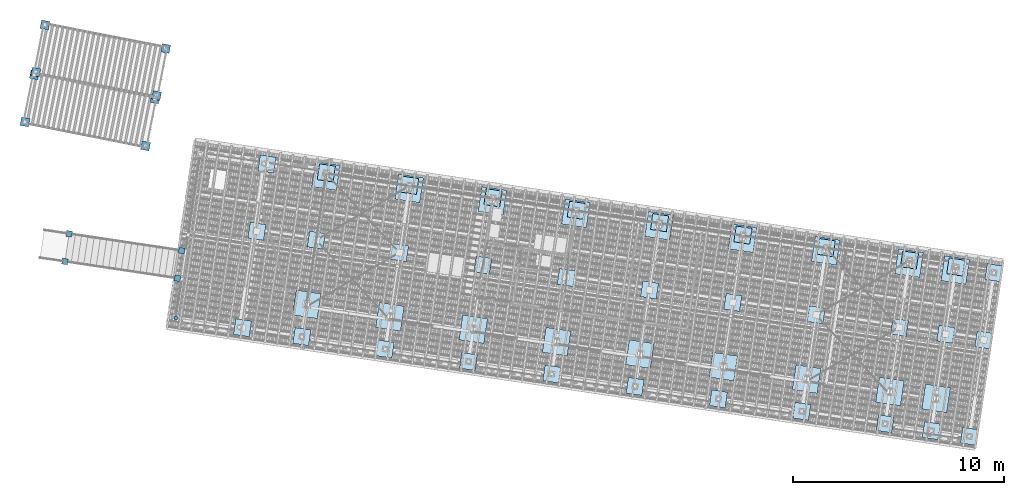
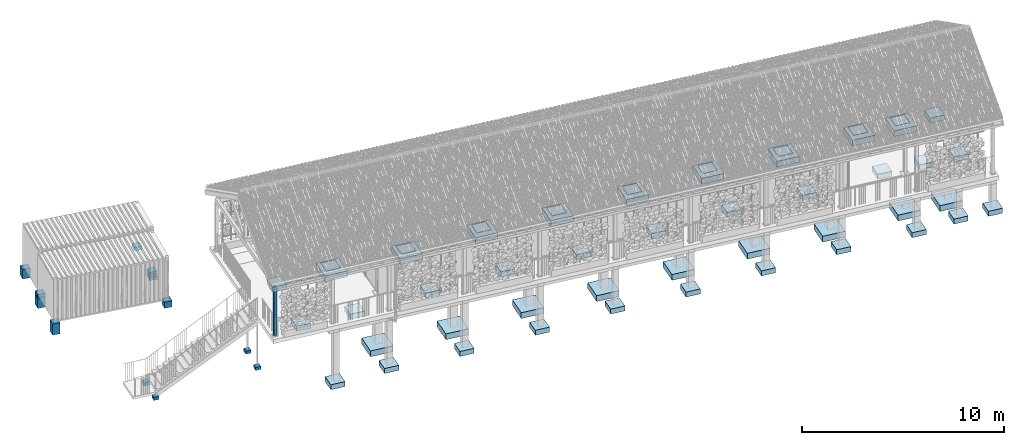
# One storey, part 1 of 131: 63 footings, 1 column, 5 elements without a shape of their own.
"""IFC4 building model written with IfcOpenShell, lengths in metres."""

import ifcopenshell
import ifcopenshell.guid

model = None  # the IFC model being written
_history = None  # IfcOwnerHistory: only IFC2X3 demands one
_inside = {}  # id of a spatial element -> (the spatial element, [elements in it])
_under = {}  # id of a project, library or spatial element -> (it, [spatial elements below it])
_declared = {}  # id of a project -> (the project, [libraries it declares])
_typed = {}  # id of a type object -> (the type object, [elements of that type])
_made_of = {}  # id of a material, layer set ... -> (it, [elements and type objects made of it])


def new_model(schema):
    """Start an empty IFC model of exactly this schema.

    Asked for "IFC4X3", IfcOpenShell would pick the latest addendum, in which some entities
    have other attributes; the version numbers below select the first issue.
    IFC2X3 requires an IfcOwnerHistory on every rooted entity: one is made here for all.
    """
    global model, _history
    if schema == "IFC4X3":
        model = ifcopenshell.file(schema_version=(4, 3, 0, 0))
    else:
        model = ifcopenshell.file(schema=schema)
    _inside.clear()
    _under.clear()
    _declared.clear()
    _typed.clear()
    _made_of.clear()
    _history = None
    if model.schema == "IFC2X3":
        org = make("IfcOrganization", Name="unknown")
        user = make(
            "IfcPersonAndOrganization",
            ThePerson=make("IfcPerson", FamilyName="unknown"),
            TheOrganization=org,
        )
        app = make(
            "IfcApplication",
            ApplicationDeveloper=org,
            Version="unknown",
            ApplicationFullName="unknown",
            ApplicationIdentifier="unknown",
        )
        _history = make(
            "IfcOwnerHistory",
            OwningUser=user,
            OwningApplication=app,
            ChangeAction="ADDED",
            CreationDate=0,
        )
    return model


def make(cls, **values):
    """One entity of the class cls with the attributes given. An attribute that is None is left unset."""
    return model.create_entity(
        cls, **{name: value for name, value in values.items() if value is not None}
    )


def rooted(cls, **values):
    """An entity with a GlobalId (a new one), such as an element, a storey or a relation."""
    return make(cls, GlobalId=ifcopenshell.guid.new(), OwnerHistory=_history, **values)


def si_unit(unit_type, name, prefix=None):
    """IfcSIUnit, for example si_unit("LENGTHUNIT", "METRE", prefix="MILLI")."""
    return make("IfcSIUnit", UnitType=unit_type, Prefix=prefix, Name=name)


def assignment(units):
    """IfcUnitAssignment: the units of a project."""
    return None if units is None else make("IfcUnitAssignment", Units=units)


def point(xyz):
    """IfcCartesianPoint."""
    return None if xyz is None else make("IfcCartesianPoint", Coordinates=xyz)


def direction(xyz):
    """IfcDirection."""
    return None if xyz is None else make("IfcDirection", DirectionRatios=xyz)


def frame(location, z_axis=None, x_axis=None):
    """IfcAxis2Placement3D, a coordinate frame: its origin and axes. An axis left out is left unset."""
    return make(
        "IfcAxis2Placement3D",
        Location=point(location),
        Axis=direction(z_axis),
        RefDirection=direction(x_axis),
    )


def origin_with_axes():
    """The frame at (0, 0, 0) with the z axis (0, 0, 1) and the x axis (1, 0, 0) written out."""
    return frame((0.0, 0.0, 0.0), z_axis=(0.0, 0.0, 1.0), x_axis=(1.0, 0.0, 0.0))


def place(relative_to, where):
    """IfcLocalPlacement: puts the frame where relative to a parent placement (None: the world)."""
    return make(
        "IfcLocalPlacement", PlacementRelTo=relative_to, RelativePlacement=where
    )


def context(
    kind, dimensions, precision=None, world=None, true_north=None, identifier=None
):
    """IfcGeometricRepresentationContext, for example the 3D "Model" context."""
    return make(
        "IfcGeometricRepresentationContext",
        ContextIdentifier=identifier,
        ContextType=kind,
        CoordinateSpaceDimension=dimensions,
        Precision=precision,
        WorldCoordinateSystem=world,
        TrueNorth=true_north,
    )


def subcontext(parent, identifier, kind, view, scale=None):
    """IfcGeometricRepresentationSubContext, for example "Body" below "Model"."""
    return make(
        "IfcGeometricRepresentationSubContext",
        ContextIdentifier=identifier,
        ContextType=kind,
        ParentContext=parent,
        TargetScale=scale,
        TargetView=view,
    )


def project(units=None, contexts=None):
    """IfcProject with its units and contexts."""
    return rooted(
        "IfcProject",
        Name="project",
        RepresentationContexts=contexts,
        UnitsInContext=assignment(units),
    )


def spatial(cls, under=None, at=None, **own):
    """A site, building, storey or space (cls), placed at a placement, below another one or the project."""
    s = rooted(cls, ObjectPlacement=at, **own)
    if under is not None:
        _under.setdefault(under.id(), (under, []))[1].append(s)
    return s


def polyline(points):
    """IfcPolyline through the points."""
    return make("IfcPolyline", Points=[point(p) for p in points])


def profile(cls, at=None, kind="AREA", **sizes):
    """A parametric profile (cls). Its sizes go by their IFC names, for example OverallWidth=200.0."""
    return make(cls, ProfileType=kind, Position=at, **sizes)


def rectangle(**sizes):
    """IfcRectangleProfileDef."""
    return profile("IfcRectangleProfileDef", **sizes)


def outline(outer, holes=None, kind="AREA"):
    """IfcArbitraryClosedProfileDef: a profile drawn as a closed curve; with holes, ...WithVoids."""
    if holes is None:
        return make("IfcArbitraryClosedProfileDef", ProfileType=kind, OuterCurve=outer)
    return make(
        "IfcArbitraryProfileDefWithVoids",
        ProfileType=kind,
        OuterCurve=outer,
        InnerCurves=holes,
    )


def extrude(swept, where, along, depth):
    """IfcExtrudedAreaSolid: the profile swept, set in the frame where, extruded along a direction by depth."""
    return make(
        "IfcExtrudedAreaSolid",
        SweptArea=swept,
        Position=where,
        ExtrudedDirection=direction(along),
        Depth=depth,
    )


def shape(context_of_items, identifier, shape_type, items):
    """IfcShapeRepresentation: the items that make up one representation, for example the "Body"."""
    return make(
        "IfcShapeRepresentation",
        ContextOfItems=context_of_items,
        RepresentationIdentifier=identifier,
        RepresentationType=shape_type,
        Items=items,
    )


def material(Name=None, Category=None):
    """IfcMaterial."""
    return make("IfcMaterial", Name=Name, Category=Category)


def material_profile(
    of_material, cross_section, Name=None, Category=None, Priority=None
):
    """IfcMaterialProfile: a cross section and its material."""
    return make(
        "IfcMaterialProfile",
        Name=Name,
        Material=of_material,
        Profile=cross_section,
        Priority=Priority,
        Category=Category,
    )


def profile_set(profiles, Name=None, composite=None):
    """IfcMaterialProfileSet."""
    return make(
        "IfcMaterialProfileSet",
        Name=Name,
        MaterialProfiles=profiles,
        CompositeProfile=composite,
    )


def profile_usage(for_profile_set, cardinal=None, extent=None):
    """IfcMaterialProfileSetUsage: how a profile set lies along its element."""
    return make(
        "IfcMaterialProfileSetUsage",
        ForProfileSet=for_profile_set,
        CardinalPoint=cardinal,
        ReferenceExtent=extent,
    )


def made_of(thing, what):
    """Note that an element or type object is made of a material, layer set ...; save() writes the relation."""
    if what is not None:
        _made_of.setdefault(what.id(), (what, []))[1].append(thing)
    return thing


def type_object(cls, material=None, **own):
    """A type object (cls), such as IfcWallType, which elements share."""
    return made_of(rooted(cls, **own), material)


def element(
    cls,
    number,
    at=None,
    inside=None,
    cuts=None,
    type_object=None,
    material=None,
    context=None,
    identifier="Body",
    shape_type=None,
    held_by="IfcProductDefinitionShape",
    body=None,
    shapes=None,
    **own,
):
    """One element of the class cls, such as IfcWall. Its Tag is "e" and its number.

    at: its placement. inside: the storey or other place that contains it. cuts: it is an
    opening in that element (IfcRelVoidsElement). A single representation is given by context,
    identifier, shape_type and body (its items); several are given by shapes. held_by: the class
    of the entity that holds the representations. save() writes the other relations.
    """
    e = rooted(cls, Tag="e%d" % number, ObjectPlacement=at, **own)
    if body is not None:
        shapes = [shape(context, identifier, shape_type, body)]
    if shapes is not None:
        e.Representation = make(held_by, Representations=shapes)
    if inside is not None:
        _inside.setdefault(inside.id(), (inside, []))[1].append(e)
    if cuts is not None:
        rooted(
            "IfcRelVoidsElement", RelatingBuildingElement=cuts, RelatedOpeningElement=e
        )
    if type_object is not None:
        _typed.setdefault(type_object.id(), (type_object, []))[1].append(e)
    return made_of(e, material)


def aggregate(whole, parts):
    """IfcRelAggregates: a whole, such as a stair, and the parts it consists of."""
    return rooted("IfcRelAggregates", RelatingObject=whole, RelatedObjects=parts)


def save(model, path):
    """Write the relations noted so far, then the file.

    IfcRelAggregates (storeys below a building ...), IfcRelContainedInSpatialStructure (elements
    in a storey), IfcRelDefinesByType, IfcRelAssociatesMaterial and IfcRelDeclares: one each for
    every whole, place, type object, material and project.
    """
    for whole, parts in _under.values():
        aggregate(whole, parts)
    for where, things in _inside.values():
        rooted(
            "IfcRelContainedInSpatialStructure",
            RelatedElements=things,
            RelatingStructure=where,
        )
    for kind, things in _typed.values():
        rooted("IfcRelDefinesByType", RelatedObjects=things, RelatingType=kind)
    for what, things in _made_of.values():
        rooted("IfcRelAssociatesMaterial", RelatedObjects=things, RelatingMaterial=what)
    for by, libraries in _declared.values():
        rooted("IfcRelDeclares", RelatingContext=by, RelatedDefinitions=libraries)
    model.write(path)


model = new_model("IFC4")

# Units and contexts
model_context = context("Model", 3, precision=1e-05, world=origin_with_axes(), true_north=direction((0.0, 1.0)))
body_context = subcontext(model_context, "Body", "Model", "MODEL_VIEW")
ifc_project = project(units=[si_unit("VOLUMEUNIT", "CUBIC_METRE"), si_unit("LENGTHUNIT", "METRE"), si_unit("AREAUNIT", "SQUARE_METRE")], contexts=[model_context])

# Site, building, storey
site_placement = place(None, origin_with_axes())
site = spatial("IfcSite", under=ifc_project, at=site_placement, Name="Lares · Rua das Mercês · artigo 4771")
building_placement = place(site_placement, frame((15.0, 9.7, 15.8), z_axis=(0.0, 0.0, 1.0), x_axis=(0.989015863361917, -0.147809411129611, 0.0)))
building = spatial("IfcBuilding", under=site, at=building_placement, Name="Casa Sobreposta")
storey_placement = place(building_placement, origin_with_axes())
storey = spatial("IfcBuildingStorey", under=building, at=storey_placement, Name="00 · Habitação e estacionamento", Elevation=15.8)

# Footings
ifc_material_1 = material(Name="Betão armado / Stahlbeton", Category="concrete")
footing_1_placement = place(storey_placement, frame((0.0, 0.0, -3.35), z_axis=(0.0, 0.0, 1.0), x_axis=(1.0, 0.0, 0.0)))
element("IfcFooting", 1, at=footing_1_placement, inside=storey, material=ifc_material_1, Name="Casa térrea · sapata", PredefinedType="PAD_FOOTING", context=body_context, shape_type="SweptSolid", body=[
    extrude(outline(polyline([(0.6, -0.48), (0.6, 0.72), (-0.6, 0.72), (-0.6, -0.48), (0.6, -0.48)])), origin_with_axes(), (0.0, 0.0, 1.0), 0.35),
])
footing_2_placement = place(storey_placement, frame((0.0, 0.0, -2.85), z_axis=(0.0, 0.0, 1.0), x_axis=(1.0, 0.0, 0.0)))
element("IfcFooting", 2, at=footing_2_placement, inside=storey, material=ifc_material_1, Name="Casa térrea · sapata", PredefinedType="PAD_FOOTING", context=body_context, shape_type="SweptSolid", body=[
    extrude(outline(polyline([(0.6, 5.68), (0.6, 6.88), (-0.6, 6.88), (-0.6, 5.68), (0.6, 5.68)])), origin_with_axes(), (0.0, 0.0, 1.0), 0.35),
])
footing_3_placement = place(storey_placement, frame((0.0, 0.0, -3.35), z_axis=(0.0, 0.0, 1.0), x_axis=(1.0, 0.0, 0.0)))
element("IfcFooting", 3, at=footing_3_placement, inside=storey, material=ifc_material_1, Name="Casa térrea · sapata", PredefinedType="PAD_FOOTING", context=body_context, shape_type="SweptSolid", body=[
    extrude(outline(polyline([(4.6, -0.48), (4.6, 0.72), (3.4, 0.72), (3.4, -0.48), (4.6, -0.48)])), origin_with_axes(), (0.0, 0.0, 1.0), 0.35),
])
footing_4_placement = place(storey_placement, frame((0.0, 0.0, -2.85), z_axis=(0.0, 0.0, 1.0), x_axis=(1.0, 0.0, 0.0)))
element("IfcFooting", 4, at=footing_4_placement, inside=storey, material=ifc_material_1, Name="Casa térrea · sapata", PredefinedType="PAD_FOOTING", context=body_context, shape_type="SweptSolid", body=[
    extrude(outline(polyline([(4.6, 5.68), (4.6, 6.88), (3.4, 6.88), (3.4, 5.68), (4.6, 5.68)])), origin_with_axes(), (0.0, 0.0, 1.0), 0.35),
])
footing_5_placement = place(storey_placement, frame((0.0, 0.0, -3.1), z_axis=(0.0, 0.0, 1.0), x_axis=(1.0, 0.0, 0.0)))
element("IfcFooting", 5, at=footing_5_placement, inside=storey, material=ifc_material_1, Name="Casa térrea · sapata", PredefinedType="PAD_FOOTING", context=body_context, shape_type="SweptSolid", body=[
    extrude(outline(polyline([(8.6, -0.48), (8.6, 0.72), (7.4, 0.72), (7.4, -0.48), (8.6, -0.48)])), origin_with_axes(), (0.0, 0.0, 1.0), 0.35),
])
footing_6_placement = place(storey_placement, frame((0.0, 0.0, -2.6), z_axis=(0.0, 0.0, 1.0), x_axis=(1.0, 0.0, 0.0)))
element("IfcFooting", 6, at=footing_6_placement, inside=storey, material=ifc_material_1, Name="Casa térrea · sapata", PredefinedType="PAD_FOOTING", context=body_context, shape_type="SweptSolid", body=[
    extrude(outline(polyline([(8.6, 5.68), (8.6, 6.88), (7.4, 6.88), (7.4, 5.68), (8.6, 5.68)])), origin_with_axes(), (0.0, 0.0, 1.0), 0.35),
])
footing_7_placement = place(storey_placement, frame((0.0, 0.0, -3.1), z_axis=(0.0, 0.0, 1.0), x_axis=(1.0, 0.0, 0.0)))
element("IfcFooting", 7, at=footing_7_placement, inside=storey, material=ifc_material_1, Name="Casa térrea · sapata", PredefinedType="PAD_FOOTING", context=body_context, shape_type="SweptSolid", body=[
    extrude(outline(polyline([(12.6, -0.48), (12.6, 0.72), (11.4, 0.72), (11.4, -0.48), (12.6, -0.48)])), origin_with_axes(), (0.0, 0.0, 1.0), 0.35),
])
footing_8_placement = place(storey_placement, frame((0.0, 0.0, -2.6), z_axis=(0.0, 0.0, 1.0), x_axis=(1.0, 0.0, 0.0)))
element("IfcFooting", 8, at=footing_8_placement, inside=storey, material=ifc_material_1, Name="Casa térrea · sapata", PredefinedType="PAD_FOOTING", context=body_context, shape_type="SweptSolid", body=[
    extrude(outline(polyline([(12.6, 5.68), (12.6, 6.88), (11.4, 6.88), (11.4, 5.68), (12.6, 5.68)])), origin_with_axes(), (0.0, 0.0, 1.0), 0.35),
])
footing_9_placement = place(storey_placement, frame((0.0, 0.0, -2.85), z_axis=(0.0, 0.0, 1.0), x_axis=(1.0, 0.0, 0.0)))
element("IfcFooting", 9, at=footing_9_placement, inside=storey, material=ifc_material_1, Name="Casa térrea · sapata", PredefinedType="PAD_FOOTING", context=body_context, shape_type="SweptSolid", body=[
    extrude(outline(polyline([(16.6, -0.48), (16.6, 0.72), (15.4, 0.72), (15.4, -0.48), (16.6, -0.48)])), origin_with_axes(), (0.0, 0.0, 1.0), 0.35),
])
footing_10_placement = place(storey_placement, frame((0.0, 0.0, -2.35), z_axis=(0.0, 0.0, 1.0), x_axis=(1.0, 0.0, 0.0)))
element("IfcFooting", 10, at=footing_10_placement, inside=storey, material=ifc_material_1, Name="Casa térrea · sapata", PredefinedType="PAD_FOOTING", context=body_context, shape_type="SweptSolid", body=[
    extrude(outline(polyline([(16.6, 5.68), (16.6, 6.88), (15.4, 6.88), (15.4, 5.68), (16.6, 5.68)])), origin_with_axes(), (0.0, 0.0, 1.0), 0.35),
])
footing_11_placement = place(storey_placement, frame((0.0, 0.0, -2.6), z_axis=(0.0, 0.0, 1.0), x_axis=(1.0, 0.0, 0.0)))
element("IfcFooting", 11, at=footing_11_placement, inside=storey, material=ifc_material_1, Name="Casa térrea · sapata", PredefinedType="PAD_FOOTING", context=body_context, shape_type="SweptSolid", body=[
    extrude(outline(polyline([(20.6, -0.48), (20.6, 0.72), (19.4, 0.72), (19.4, -0.48), (20.6, -0.48)])), origin_with_axes(), (0.0, 0.0, 1.0), 0.35),
])
footing_12_placement = place(storey_placement, frame((0.0, 0.0, -2.1), z_axis=(0.0, 0.0, 1.0), x_axis=(1.0, 0.0, 0.0)))
element("IfcFooting", 12, at=footing_12_placement, inside=storey, material=ifc_material_1, Name="Casa térrea · sapata", PredefinedType="PAD_FOOTING", context=body_context, shape_type="SweptSolid", body=[
    extrude(outline(polyline([(20.6, 5.68), (20.6, 6.88), (19.4, 6.88), (19.4, 5.68), (20.6, 5.68)])), origin_with_axes(), (0.0, 0.0, 1.0), 0.35),
])
footing_13_placement = place(storey_placement, frame((0.0, 0.0, -2.6), z_axis=(0.0, 0.0, 1.0), x_axis=(1.0, 0.0, 0.0)))
element("IfcFooting", 13, at=footing_13_placement, inside=storey, material=ifc_material_1, Name="Casa térrea · sapata", PredefinedType="PAD_FOOTING", context=body_context, shape_type="SweptSolid", body=[
    extrude(outline(polyline([(24.6, -0.48), (24.6, 0.72), (23.4, 0.72), (23.4, -0.48), (24.6, -0.48)])), origin_with_axes(), (0.0, 0.0, 1.0), 0.35),
])
footing_14_placement = place(storey_placement, frame((0.0, 0.0, -2.1), z_axis=(0.0, 0.0, 1.0), x_axis=(1.0, 0.0, 0.0)))
element("IfcFooting", 14, at=footing_14_placement, inside=storey, material=ifc_material_1, Name="Casa térrea · sapata", PredefinedType="PAD_FOOTING", context=body_context, shape_type="SweptSolid", body=[
    extrude(outline(polyline([(24.6, 5.68), (24.6, 6.88), (23.4, 6.88), (23.4, 5.68), (24.6, 5.68)])), origin_with_axes(), (0.0, 0.0, 1.0), 0.35),
])
footing_15_placement = place(storey_placement, frame((0.0, 0.0, -2.35), z_axis=(0.0, 0.0, 1.0), x_axis=(1.0, 0.0, 0.0)))
element("IfcFooting", 15, at=footing_15_placement, inside=storey, material=ifc_material_1, Name="Casa térrea · sapata", PredefinedType="PAD_FOOTING", context=body_context, shape_type="SweptSolid", body=[
    extrude(outline(polyline([(28.6, -0.48), (28.6, 0.72), (27.4, 0.72), (27.4, -0.48), (28.6, -0.48)])), origin_with_axes(), (0.0, 0.0, 1.0), 0.35),
])
footing_16_placement = place(storey_placement, frame((0.0, 0.0, -1.85), z_axis=(0.0, 0.0, 1.0), x_axis=(1.0, 0.0, 0.0)))
element("IfcFooting", 16, at=footing_16_placement, inside=storey, material=ifc_material_1, Name="Casa térrea · sapata", PredefinedType="PAD_FOOTING", context=body_context, shape_type="SweptSolid", body=[
    extrude(outline(polyline([(28.6, 5.68), (28.6, 6.88), (27.4, 6.88), (27.4, 5.68), (28.6, 5.68)])), origin_with_axes(), (0.0, 0.0, 1.0), 0.35),
])
footing_17_placement = place(storey_placement, frame((0.0, 0.0, -2.35), z_axis=(0.0, 0.0, 1.0), x_axis=(1.0, 0.0, 0.0)))
element("IfcFooting", 17, at=footing_17_placement, inside=storey, material=ifc_material_1, Name="Casa térrea · sapata", PredefinedType="PAD_FOOTING", context=body_context, shape_type="SweptSolid", body=[
    extrude(outline(polyline([(30.82, -0.48), (30.82, 0.72), (29.62, 0.72), (29.62, -0.48), (30.82, -0.48)])), origin_with_axes(), (0.0, 0.0, 1.0), 0.35),
])
footing_18_placement = place(storey_placement, frame((0.0, 0.0, -1.85), z_axis=(0.0, 0.0, 1.0), x_axis=(1.0, 0.0, 0.0)))
element("IfcFooting", 18, at=footing_18_placement, inside=storey, material=ifc_material_1, Name="Casa térrea · sapata", PredefinedType="PAD_FOOTING", context=body_context, shape_type="SweptSolid", body=[
    extrude(outline(polyline([(30.82, 5.68), (30.82, 6.88), (29.62, 6.88), (29.62, 5.68), (30.82, 5.68)])), origin_with_axes(), (0.0, 0.0, 1.0), 0.35),
])

# Stair, footings
stair_placement = place(storey_placement, origin_with_axes())
stair = element("IfcStair", 19, at=stair_placement, inside=storey, Name="Jardim · escada pela fachada poente", PredefinedType="STRAIGHT_RUN_STAIR")
footing_19_placement = place(stair_placement, frame((0.0, 0.0, -3.19767746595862), z_axis=(0.0, 0.0, 1.0), x_axis=(1.0, 0.0, 0.0)))
footing_19 = element("IfcFooting", 20, at=footing_19_placement, material=ifc_material_1, Name="Jardim · apoio", PredefinedType="PAD_FOOTING", context=body_context, shape_type="SweptSolid", body=[
    extrude(outline(polyline([(-6.11, 0.295), (-6.11, 0.575), (-6.39, 0.575), (-6.39, 0.295), (-6.11, 0.295)])), origin_with_axes(), (0.0, 0.0, 1.0), 0.18),
])
footing_20_placement = place(stair_placement, frame((0.0, 0.0, -3.62), z_axis=(0.0, 0.0, 1.0), x_axis=(1.0, 0.0, 0.0)))
footing_20 = element("IfcFooting", 21, at=footing_20_placement, material=ifc_material_1, Name="Jardim · apoio", PredefinedType="PAD_FOOTING", context=body_context, shape_type="SweptSolid", body=[
    extrude(outline(polyline([(-11.51, 0.295), (-11.51, 0.575), (-11.79, 0.575), (-11.79, 0.295), (-11.51, 0.295)])), origin_with_axes(), (0.0, 0.0, 1.0), 0.18),
])
footing_21_placement = place(stair_placement, frame((0.0, 0.0, -3.08553574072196), z_axis=(0.0, 0.0, 1.0), x_axis=(1.0, 0.0, 0.0)))
footing_21 = element("IfcFooting", 22, at=footing_21_placement, material=ifc_material_1, Name="Jardim · apoio", PredefinedType="PAD_FOOTING", context=body_context, shape_type="SweptSolid", body=[
    extrude(outline(polyline([(-6.11, 1.625), (-6.11, 1.905), (-6.39, 1.905), (-6.39, 1.625), (-6.11, 1.625)])), origin_with_axes(), (0.0, 0.0, 1.0), 0.18),
])
footing_22_placement = place(stair_placement, frame((0.0, 0.0, -3.62), z_axis=(0.0, 0.0, 1.0), x_axis=(1.0, 0.0, 0.0)))
footing_22 = element("IfcFooting", 23, at=footing_22_placement, material=ifc_material_1, Name="Jardim · apoio", PredefinedType="PAD_FOOTING", context=body_context, shape_type="SweptSolid", body=[
    extrude(outline(polyline([(-11.51, 1.625), (-11.51, 1.905), (-11.79, 1.905), (-11.79, 1.625), (-11.51, 1.625)])), origin_with_axes(), (0.0, 0.0, 1.0), 0.18),
])
aggregate(stair, [footing_19, footing_20, footing_21, footing_22])

# Assembly, footings
assembly_1_placement = place(storey_placement, origin_with_axes())
assembly_1 = element("IfcElementAssembly", 24, at=assembly_1_placement, inside=storey, Name="Pódio · terraço, casa térrea e cisterna", ObjectType="CISTERN_PODIUM", PredefinedType="USERDEFINED")
footing_23_placement = place(assembly_1_placement, frame((0.0, 0.0, -3.8), z_axis=(0.0, 0.0, 1.0), x_axis=(1.0, 0.0, 0.0)))
footing_23 = element("IfcFooting", 25, at=footing_23_placement, material=ifc_material_1, Name="Pódio suspenso · sapata pontual", PredefinedType="PAD_FOOTING", context=body_context, shape_type="SweptSolid", body=[
    extrude(outline(polyline([(-2.47, -1.81), (-2.47, -1.05), (-3.23, -1.05), (-3.23, -1.81), (-2.47, -1.81)])), origin_with_axes(), (0.0, 0.0, 1.0), 0.3),
])
footing_24_placement = place(assembly_1_placement, frame((0.0, 0.0, -3.3), z_axis=(0.0, 0.0, 1.0), x_axis=(1.0, 0.0, 0.0)))
footing_24 = element("IfcFooting", 26, at=footing_24_placement, material=ifc_material_1, Name="Pódio suspenso · sapata pontual", PredefinedType="PAD_FOOTING", context=body_context, shape_type="SweptSolid", body=[
    extrude(outline(polyline([(-2.47, 2.82), (-2.47, 3.58), (-3.23, 3.58), (-3.23, 2.82), (-2.47, 2.82)])), origin_with_axes(), (0.0, 0.0, 1.0), 0.3),
])
footing_25_placement = place(assembly_1_placement, frame((0.0, 0.0, -3.05), z_axis=(0.0, 0.0, 1.0), x_axis=(1.0, 0.0, 0.0)))
footing_25 = element("IfcFooting", 27, at=footing_25_placement, material=ifc_material_1, Name="Pódio suspenso · sapata pontual", PredefinedType="PAD_FOOTING", context=body_context, shape_type="SweptSolid", body=[
    extrude(outline(polyline([(-2.47, 6.05), (-2.47, 6.81), (-3.23, 6.81), (-3.23, 6.05), (-2.47, 6.05)])), origin_with_axes(), (0.0, 0.0, 1.0), 0.3),
])
footing_26_placement = place(assembly_1_placement, frame((0.0, 0.0, -3.55), z_axis=(0.0, 0.0, 1.0), x_axis=(1.0, 0.0, 0.0)))
footing_26 = element("IfcFooting", 28, at=footing_26_placement, material=ifc_material_1, Name="Pódio suspenso · sapata pontual", PredefinedType="PAD_FOOTING", context=body_context, shape_type="SweptSolid", body=[
    extrude(outline(polyline([(0.38, -1.81), (0.38, -1.05), (-0.38, -1.05), (-0.38, -1.81), (0.38, -1.81)])), origin_with_axes(), (0.0, 0.0, 1.0), 0.3),
])
footing_27_placement = place(assembly_1_placement, frame((0.0, 0.0, -3.3), z_axis=(0.0, 0.0, 1.0), x_axis=(1.0, 0.0, 0.0)))
footing_27 = element("IfcFooting", 29, at=footing_27_placement, material=ifc_material_1, Name="Pódio suspenso · sapata pontual", PredefinedType="PAD_FOOTING", context=body_context, shape_type="SweptSolid", body=[
    extrude(outline(polyline([(0.38, 2.82), (0.38, 3.58), (-0.38, 3.58), (-0.38, 2.82), (0.38, 2.82)])), origin_with_axes(), (0.0, 0.0, 1.0), 0.3),
])
footing_28_placement = place(assembly_1_placement, frame((0.0, 0.0, -2.8), z_axis=(0.0, 0.0, 1.0), x_axis=(1.0, 0.0, 0.0)))
footing_28 = element("IfcFooting", 30, at=footing_28_placement, material=ifc_material_1, Name="Pódio suspenso · sapata pontual", PredefinedType="PAD_FOOTING", context=body_context, shape_type="SweptSolid", body=[
    extrude(outline(polyline([(0.38, 6.05), (0.38, 6.81), (-0.38, 6.81), (-0.38, 6.05), (0.38, 6.05)])), origin_with_axes(), (0.0, 0.0, 1.0), 0.3),
])
footing_29_placement = place(assembly_1_placement, frame((0.0, 0.0, -3.55), z_axis=(0.0, 0.0, 1.0), x_axis=(1.0, 0.0, 0.0)))
footing_29 = element("IfcFooting", 31, at=footing_29_placement, material=ifc_material_1, Name="Pódio suspenso · sapata pontual", PredefinedType="PAD_FOOTING", context=body_context, shape_type="SweptSolid", body=[
    extrude(outline(polyline([(4.38, -1.81), (4.38, -1.05), (3.62, -1.05), (3.62, -1.81), (4.38, -1.81)])), origin_with_axes(), (0.0, 0.0, 1.0), 0.3),
])
footing_30_placement = place(assembly_1_placement, frame((0.0, 0.0, -3.05), z_axis=(0.0, 0.0, 1.0), x_axis=(1.0, 0.0, 0.0)))
footing_30 = element("IfcFooting", 32, at=footing_30_placement, material=ifc_material_1, Name="Pódio suspenso · sapata pontual", PredefinedType="PAD_FOOTING", context=body_context, shape_type="SweptSolid", body=[
    extrude(outline(polyline([(4.38, 2.82), (4.38, 3.58), (3.62, 3.58), (3.62, 2.82), (4.38, 2.82)])), origin_with_axes(), (0.0, 0.0, 1.0), 0.3),
])
footing_31_placement = place(assembly_1_placement, frame((0.0, 0.0, -2.8), z_axis=(0.0, 0.0, 1.0), x_axis=(1.0, 0.0, 0.0)))
footing_31 = element("IfcFooting", 33, at=footing_31_placement, material=ifc_material_1, Name="Pódio suspenso · sapata pontual", PredefinedType="PAD_FOOTING", context=body_context, shape_type="SweptSolid", body=[
    extrude(outline(polyline([(4.38, 6.05), (4.38, 6.81), (3.62, 6.81), (3.62, 6.05), (4.38, 6.05)])), origin_with_axes(), (0.0, 0.0, 1.0), 0.3),
])
footing_32_placement = place(assembly_1_placement, frame((0.0, 0.0, -3.3), z_axis=(0.0, 0.0, 1.0), x_axis=(1.0, 0.0, 0.0)))
footing_32 = element("IfcFooting", 34, at=footing_32_placement, material=ifc_material_1, Name="Pódio suspenso · sapata pontual", PredefinedType="PAD_FOOTING", context=body_context, shape_type="SweptSolid", body=[
    extrude(outline(polyline([(8.38, -1.81), (8.38, -1.05), (7.62, -1.05), (7.62, -1.81), (8.38, -1.81)])), origin_with_axes(), (0.0, 0.0, 1.0), 0.3),
])
footing_33_placement = place(assembly_1_placement, frame((0.0, 0.0, -2.8), z_axis=(0.0, 0.0, 1.0), x_axis=(1.0, 0.0, 0.0)))
footing_33 = element("IfcFooting", 35, at=footing_33_placement, material=ifc_material_1, Name="Pódio suspenso · sapata pontual", PredefinedType="PAD_FOOTING", context=body_context, shape_type="SweptSolid", body=[
    extrude(outline(polyline([(8.38, 2.82), (8.38, 3.58), (7.62, 3.58), (7.62, 2.82), (8.38, 2.82)])), origin_with_axes(), (0.0, 0.0, 1.0), 0.3),
])
footing_34_placement = place(assembly_1_placement, frame((0.0, 0.0, -2.55), z_axis=(0.0, 0.0, 1.0), x_axis=(1.0, 0.0, 0.0)))
footing_34 = element("IfcFooting", 36, at=footing_34_placement, material=ifc_material_1, Name="Pódio suspenso · sapata pontual", PredefinedType="PAD_FOOTING", context=body_context, shape_type="SweptSolid", body=[
    extrude(outline(polyline([(8.38, 6.05), (8.38, 6.81), (7.62, 6.81), (7.62, 6.05), (8.38, 6.05)])), origin_with_axes(), (0.0, 0.0, 1.0), 0.3),
])
footing_35_placement = place(assembly_1_placement, frame((0.0, 0.0, -3.05), z_axis=(0.0, 0.0, 1.0), x_axis=(1.0, 0.0, 0.0)))
footing_35 = element("IfcFooting", 37, at=footing_35_placement, material=ifc_material_1, Name="Pódio suspenso · sapata pontual", PredefinedType="PAD_FOOTING", context=body_context, shape_type="SweptSolid", body=[
    extrude(outline(polyline([(12.38, -1.81), (12.38, -1.05), (11.62, -1.05), (11.62, -1.81), (12.38, -1.81)])), origin_with_axes(), (0.0, 0.0, 1.0), 0.3),
])
footing_36_placement = place(assembly_1_placement, frame((0.0, 0.0, -2.8), z_axis=(0.0, 0.0, 1.0), x_axis=(1.0, 0.0, 0.0)))
footing_36 = element("IfcFooting", 38, at=footing_36_placement, material=ifc_material_1, Name="Pódio suspenso · sapata pontual", PredefinedType="PAD_FOOTING", context=body_context, shape_type="SweptSolid", body=[
    extrude(outline(polyline([(12.38, 2.82), (12.38, 3.58), (11.62, 3.58), (11.62, 2.82), (12.38, 2.82)])), origin_with_axes(), (0.0, 0.0, 1.0), 0.3),
])
footing_37_placement = place(assembly_1_placement, frame((0.0, 0.0, -2.55), z_axis=(0.0, 0.0, 1.0), x_axis=(1.0, 0.0, 0.0)))
footing_37 = element("IfcFooting", 39, at=footing_37_placement, material=ifc_material_1, Name="Pódio suspenso · sapata pontual", PredefinedType="PAD_FOOTING", context=body_context, shape_type="SweptSolid", body=[
    extrude(outline(polyline([(12.38, 6.05), (12.38, 6.81), (11.62, 6.81), (11.62, 6.05), (12.38, 6.05)])), origin_with_axes(), (0.0, 0.0, 1.0), 0.3),
])
footing_38_placement = place(assembly_1_placement, frame((0.0, 0.0, -3.05), z_axis=(0.0, 0.0, 1.0), x_axis=(1.0, 0.0, 0.0)))
footing_38 = element("IfcFooting", 40, at=footing_38_placement, material=ifc_material_1, Name="Pódio suspenso · sapata pontual", PredefinedType="PAD_FOOTING", context=body_context, shape_type="SweptSolid", body=[
    extrude(outline(polyline([(16.38, -1.81), (16.38, -1.05), (15.62, -1.05), (15.62, -1.81), (16.38, -1.81)])), origin_with_axes(), (0.0, 0.0, 1.0), 0.3),
])
footing_39_placement = place(assembly_1_placement, frame((0.0, 0.0, -2.55), z_axis=(0.0, 0.0, 1.0), x_axis=(1.0, 0.0, 0.0)))
footing_39 = element("IfcFooting", 41, at=footing_39_placement, material=ifc_material_1, Name="Pódio suspenso · sapata pontual", PredefinedType="PAD_FOOTING", context=body_context, shape_type="SweptSolid", body=[
    extrude(outline(polyline([(16.38, 2.82), (16.38, 3.58), (15.62, 3.58), (15.62, 2.82), (16.38, 2.82)])), origin_with_axes(), (0.0, 0.0, 1.0), 0.3),
])
footing_40_placement = place(assembly_1_placement, frame((0.0, 0.0, -2.3), z_axis=(0.0, 0.0, 1.0), x_axis=(1.0, 0.0, 0.0)))
footing_40 = element("IfcFooting", 42, at=footing_40_placement, material=ifc_material_1, Name="Pódio suspenso · sapata pontual", PredefinedType="PAD_FOOTING", context=body_context, shape_type="SweptSolid", body=[
    extrude(outline(polyline([(16.38, 6.05), (16.38, 6.81), (15.62, 6.81), (15.62, 6.05), (16.38, 6.05)])), origin_with_axes(), (0.0, 0.0, 1.0), 0.3),
])
footing_41_placement = place(assembly_1_placement, frame((0.0, 0.0, -2.8), z_axis=(0.0, 0.0, 1.0), x_axis=(1.0, 0.0, 0.0)))
footing_41 = element("IfcFooting", 43, at=footing_41_placement, material=ifc_material_1, Name="Pódio suspenso · sapata pontual", PredefinedType="PAD_FOOTING", context=body_context, shape_type="SweptSolid", body=[
    extrude(outline(polyline([(20.38, -1.81), (20.38, -1.05), (19.62, -1.05), (19.62, -1.81), (20.38, -1.81)])), origin_with_axes(), (0.0, 0.0, 1.0), 0.3),
])
footing_42_placement = place(assembly_1_placement, frame((0.0, 0.0, -2.3), z_axis=(0.0, 0.0, 1.0), x_axis=(1.0, 0.0, 0.0)))
footing_42 = element("IfcFooting", 44, at=footing_42_placement, material=ifc_material_1, Name="Pódio suspenso · sapata pontual", PredefinedType="PAD_FOOTING", context=body_context, shape_type="SweptSolid", body=[
    extrude(outline(polyline([(20.38, 2.82), (20.38, 3.58), (19.62, 3.58), (19.62, 2.82), (20.38, 2.82)])), origin_with_axes(), (0.0, 0.0, 1.0), 0.3),
])
footing_43_placement = place(assembly_1_placement, frame((0.0, 0.0, -2.05), z_axis=(0.0, 0.0, 1.0), x_axis=(1.0, 0.0, 0.0)))
footing_43 = element("IfcFooting", 45, at=footing_43_placement, material=ifc_material_1, Name="Pódio suspenso · sapata pontual", PredefinedType="PAD_FOOTING", context=body_context, shape_type="SweptSolid", body=[
    extrude(outline(polyline([(20.38, 6.05), (20.38, 6.81), (19.62, 6.81), (19.62, 6.05), (20.38, 6.05)])), origin_with_axes(), (0.0, 0.0, 1.0), 0.3),
])
footing_44_placement = place(assembly_1_placement, frame((0.0, 0.0, -2.55), z_axis=(0.0, 0.0, 1.0), x_axis=(1.0, 0.0, 0.0)))
footing_44 = element("IfcFooting", 46, at=footing_44_placement, material=ifc_material_1, Name="Pódio suspenso · sapata pontual", PredefinedType="PAD_FOOTING", context=body_context, shape_type="SweptSolid", body=[
    extrude(outline(polyline([(24.38, -1.81), (24.38, -1.05), (23.62, -1.05), (23.62, -1.81), (24.38, -1.81)])), origin_with_axes(), (0.0, 0.0, 1.0), 0.3),
])
footing_45_placement = place(assembly_1_placement, frame((0.0, 0.0, -2.3), z_axis=(0.0, 0.0, 1.0), x_axis=(1.0, 0.0, 0.0)))
footing_45 = element("IfcFooting", 47, at=footing_45_placement, material=ifc_material_1, Name="Pódio suspenso · sapata pontual", PredefinedType="PAD_FOOTING", context=body_context, shape_type="SweptSolid", body=[
    extrude(outline(polyline([(24.38, 2.82), (24.38, 3.58), (23.62, 3.58), (23.62, 2.82), (24.38, 2.82)])), origin_with_axes(), (0.0, 0.0, 1.0), 0.3),
])
footing_46_placement = place(assembly_1_placement, frame((0.0, 0.0, -2.05), z_axis=(0.0, 0.0, 1.0), x_axis=(1.0, 0.0, 0.0)))
footing_46 = element("IfcFooting", 48, at=footing_46_placement, material=ifc_material_1, Name="Pódio suspenso · sapata pontual", PredefinedType="PAD_FOOTING", context=body_context, shape_type="SweptSolid", body=[
    extrude(outline(polyline([(24.38, 6.05), (24.38, 6.81), (23.62, 6.81), (23.62, 6.05), (24.38, 6.05)])), origin_with_axes(), (0.0, 0.0, 1.0), 0.3),
])
footing_47_placement = place(assembly_1_placement, frame((0.0, 0.0, -2.55), z_axis=(0.0, 0.0, 1.0), x_axis=(1.0, 0.0, 0.0)))
footing_47 = element("IfcFooting", 49, at=footing_47_placement, material=ifc_material_1, Name="Pódio suspenso · sapata pontual", PredefinedType="PAD_FOOTING", context=body_context, shape_type="SweptSolid", body=[
    extrude(outline(polyline([(28.38, -1.81), (28.38, -1.05), (27.62, -1.05), (27.62, -1.81), (28.38, -1.81)])), origin_with_axes(), (0.0, 0.0, 1.0), 0.3),
])
footing_48_placement = place(assembly_1_placement, frame((0.0, 0.0, -2.05), z_axis=(0.0, 0.0, 1.0), x_axis=(1.0, 0.0, 0.0)))
footing_48 = element("IfcFooting", 50, at=footing_48_placement, material=ifc_material_1, Name="Pódio suspenso · sapata pontual", PredefinedType="PAD_FOOTING", context=body_context, shape_type="SweptSolid", body=[
    extrude(outline(polyline([(28.38, 2.82), (28.38, 3.58), (27.62, 3.58), (27.62, 2.82), (28.38, 2.82)])), origin_with_axes(), (0.0, 0.0, 1.0), 0.3),
])
footing_49_placement = place(assembly_1_placement, frame((0.0, 0.0, -1.8), z_axis=(0.0, 0.0, 1.0), x_axis=(1.0, 0.0, 0.0)))
footing_49 = element("IfcFooting", 51, at=footing_49_placement, material=ifc_material_1, Name="Pódio suspenso · sapata pontual", PredefinedType="PAD_FOOTING", context=body_context, shape_type="SweptSolid", body=[
    extrude(outline(polyline([(28.38, 6.05), (28.38, 6.81), (27.62, 6.81), (27.62, 6.05), (28.38, 6.05)])), origin_with_axes(), (0.0, 0.0, 1.0), 0.3),
])
footing_50_placement = place(assembly_1_placement, frame((0.0, 0.0, -2.3), z_axis=(0.0, 0.0, 1.0), x_axis=(1.0, 0.0, 0.0)))
footing_50 = element("IfcFooting", 52, at=footing_50_placement, material=ifc_material_1, Name="Pódio suspenso · sapata pontual", PredefinedType="PAD_FOOTING", context=body_context, shape_type="SweptSolid", body=[
    extrude(outline(polyline([(30.6, -1.81), (30.6, -1.05), (29.84, -1.05), (29.84, -1.81), (30.6, -1.81)])), origin_with_axes(), (0.0, 0.0, 1.0), 0.3),
])
footing_51_placement = place(assembly_1_placement, frame((0.0, 0.0, -2.05), z_axis=(0.0, 0.0, 1.0), x_axis=(1.0, 0.0, 0.0)))
footing_51 = element("IfcFooting", 53, at=footing_51_placement, material=ifc_material_1, Name="Pódio suspenso · sapata pontual", PredefinedType="PAD_FOOTING", context=body_context, shape_type="SweptSolid", body=[
    extrude(outline(polyline([(30.6, 2.82), (30.6, 3.58), (29.84, 3.58), (29.84, 2.82), (30.6, 2.82)])), origin_with_axes(), (0.0, 0.0, 1.0), 0.3),
])
footing_52_placement = place(assembly_1_placement, frame((0.0, 0.0, -1.8), z_axis=(0.0, 0.0, 1.0), x_axis=(1.0, 0.0, 0.0)))
footing_52 = element("IfcFooting", 54, at=footing_52_placement, material=ifc_material_1, Name="Pódio suspenso · sapata pontual", PredefinedType="PAD_FOOTING", context=body_context, shape_type="SweptSolid", body=[
    extrude(outline(polyline([(30.6, 6.05), (30.6, 6.81), (29.84, 6.81), (29.84, 6.05), (30.6, 6.05)])), origin_with_axes(), (0.0, 0.0, 1.0), 0.3),
])
footing_53_placement = place(assembly_1_placement, frame((0.0, 0.0, -2.3), z_axis=(0.0, 0.0, 1.0), x_axis=(1.0, 0.0, 0.0)))
footing_53 = element("IfcFooting", 55, at=footing_53_placement, material=ifc_material_1, Name="Pódio suspenso · sapata pontual", PredefinedType="PAD_FOOTING", context=body_context, shape_type="SweptSolid", body=[
    extrude(outline(polyline([(32.43, -1.81), (32.43, -1.05), (31.67, -1.05), (31.67, -1.81), (32.43, -1.81)])), origin_with_axes(), (0.0, 0.0, 1.0), 0.3),
])
footing_54_placement = place(assembly_1_placement, frame((0.0, 0.0, -2.05), z_axis=(0.0, 0.0, 1.0), x_axis=(1.0, 0.0, 0.0)))
footing_54 = element("IfcFooting", 56, at=footing_54_placement, material=ifc_material_1, Name="Pódio suspenso · sapata pontual", PredefinedType="PAD_FOOTING", context=body_context, shape_type="SweptSolid", body=[
    extrude(outline(polyline([(32.43, 2.82), (32.43, 3.58), (31.67, 3.58), (31.67, 2.82), (32.43, 2.82)])), origin_with_axes(), (0.0, 0.0, 1.0), 0.3),
])
footing_55_placement = place(assembly_1_placement, frame((0.0, 0.0, -1.8), z_axis=(0.0, 0.0, 1.0), x_axis=(1.0, 0.0, 0.0)))
footing_55 = element("IfcFooting", 57, at=footing_55_placement, material=ifc_material_1, Name="Pódio suspenso · sapata pontual", PredefinedType="PAD_FOOTING", context=body_context, shape_type="SweptSolid", body=[
    extrude(outline(polyline([(32.43, 6.05), (32.43, 6.81), (31.67, 6.81), (31.67, 6.05), (32.43, 6.05)])), origin_with_axes(), (0.0, 0.0, 1.0), 0.3),
])
aggregate(assembly_1, [footing_23, footing_24, footing_25, footing_26, footing_27, footing_28, footing_29, footing_30, footing_31, footing_32, footing_33, footing_34, footing_35, footing_36, footing_37, footing_38, footing_39, footing_40, footing_41, footing_42, footing_43, footing_44, footing_45, footing_46, footing_47, footing_48, footing_49, footing_50, footing_51, footing_52, footing_53, footing_54, footing_55])

assembly_2_placement = place(storey_placement, frame((-14.4335953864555, 9.04888612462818, 0.0), z_axis=(0.0, 0.0, 1.0), x_axis=(0.999032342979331, -0.0439815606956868, 0.0)))
assembly_2 = element("IfcElementAssembly", 58, at=assembly_2_placement, inside=storey, Name="Contentor existente 1 · 6 m", ObjectType="EXISTING_SHIPPING_CONTAINER", PredefinedType="USERDEFINED")
footing_56_placement = place(assembly_2_placement, frame((0.0, 0.0, -2.87368011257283), z_axis=(0.0, 0.0, 1.0), x_axis=(1.0, 0.0, 0.0)))
footing_56 = element("IfcFooting", 59, at=footing_56_placement, material=ifc_material_1, Name="Contentor · apoio existente indicativo", PredefinedType="PAD_FOOTING", context=body_context, shape_type="SweptSolid", body=[
    extrude(outline(polyline([(0.28, -0.12), (0.28, 0.28), (-0.12, 0.28), (-0.12, -0.12), (0.28, -0.12)])), origin_with_axes(), (0.0, 0.0, 1.0), 0.710538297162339),
])
footing_57_placement = place(assembly_2_placement, frame((0.0, 0.0, -2.7312660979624), z_axis=(0.0, 0.0, 1.0), x_axis=(1.0, 0.0, 0.0)))
footing_57 = element("IfcFooting", 60, at=footing_57_placement, material=ifc_material_1, Name="Contentor · apoio existente indicativo", PredefinedType="PAD_FOOTING", context=body_context, shape_type="SweptSolid", body=[
    extrude(outline(polyline([(0.28, 2.16), (0.28, 2.56), (-0.12, 2.56), (-0.12, 2.16), (0.28, 2.16)])), origin_with_axes(), (0.0, 0.0, 1.0), 0.568124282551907),
])
footing_58_placement = place(assembly_2_placement, frame((0.0, 0.0, -2.51548809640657), z_axis=(0.0, 0.0, 1.0), x_axis=(1.0, 0.0, 0.0)))
footing_58 = element("IfcFooting", 61, at=footing_58_placement, material=ifc_material_1, Name="Contentor · apoio existente indicativo", PredefinedType="PAD_FOOTING", context=body_context, shape_type="SweptSolid", body=[
    extrude(outline(polyline([(6.12, -0.12), (6.12, 0.28), (5.72, 0.28), (5.72, -0.12), (6.12, -0.12)])), origin_with_axes(), (0.0, 0.0, 1.0), 0.352346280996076),
])
footing_59_placement = place(assembly_2_placement, frame((0.0, 0.0, -2.37298332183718), z_axis=(0.0, 0.0, 1.0), x_axis=(1.0, 0.0, 0.0)))
footing_59 = element("IfcFooting", 62, at=footing_59_placement, material=ifc_material_1, Name="Contentor · apoio existente indicativo", PredefinedType="PAD_FOOTING", context=body_context, shape_type="SweptSolid", body=[
    extrude(outline(polyline([(6.12, 2.16), (6.12, 2.56), (5.72, 2.56), (5.72, 2.16), (6.12, 2.16)])), origin_with_axes(), (0.0, 0.0, 1.0), 0.209841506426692),
])
aggregate(assembly_2, [footing_56, footing_57, footing_58, footing_59])

assembly_3_placement = place(storey_placement, frame((-14.5932944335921, 6.63122214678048, 0.0), z_axis=(0.0, 0.0, 1.0), x_axis=(0.998832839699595, -0.0483007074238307, 0.0)))
assembly_3 = element("IfcElementAssembly", 63, at=assembly_3_placement, inside=storey, Name="Contentor existente 2 · 6 m", ObjectType="EXISTING_SHIPPING_CONTAINER", PredefinedType="USERDEFINED")
footing_60_placement = place(assembly_3_placement, frame((0.0, 0.0, -2.98544963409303), z_axis=(0.0, 0.0, 1.0), x_axis=(1.0, 0.0, 0.0)))
footing_60 = element("IfcFooting", 64, at=footing_60_placement, material=ifc_material_1, Name="Contentor · apoio existente indicativo", PredefinedType="PAD_FOOTING", context=body_context, shape_type="SweptSolid", body=[
    extrude(outline(polyline([(0.28, -0.12), (0.28, 0.28), (-0.12, 0.28), (-0.12, -0.12), (0.28, -0.12)])), origin_with_axes(), (0.0, 0.0, 1.0), 0.666697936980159),
])
footing_61_placement = place(assembly_3_placement, frame((0.0, 0.0, -2.88526491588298), z_axis=(0.0, 0.0, 1.0), x_axis=(1.0, 0.0, 0.0)))
footing_61 = element("IfcFooting", 65, at=footing_61_placement, material=ifc_material_1, Name="Contentor · apoio existente indicativo", PredefinedType="PAD_FOOTING", context=body_context, shape_type="SweptSolid", body=[
    extrude(outline(polyline([(0.28, 2.16), (0.28, 2.56), (-0.12, 2.56), (-0.12, 2.16), (0.28, 2.16)])), origin_with_axes(), (0.0, 0.0, 1.0), 0.566513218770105),
])
footing_62_placement = place(assembly_3_placement, frame((0.0, 0.0, -2.68197749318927), z_axis=(0.0, 0.0, 1.0), x_axis=(1.0, 0.0, 0.0)))
footing_62 = element("IfcFooting", 66, at=footing_62_placement, material=ifc_material_1, Name="Contentor · apoio existente indicativo", PredefinedType="PAD_FOOTING", context=body_context, shape_type="SweptSolid", body=[
    extrude(outline(polyline([(6.12, -0.12), (6.12, 0.28), (5.72, 0.28), (5.72, -0.12), (6.12, -0.12)])), origin_with_axes(), (0.0, 0.0, 1.0), 0.363225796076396),
])
footing_63_placement = place(assembly_3_placement, frame((0.0, 0.0, -2.52859242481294), z_axis=(0.0, 0.0, 1.0), x_axis=(1.0, 0.0, 0.0)))
footing_63 = element("IfcFooting", 67, at=footing_63_placement, material=ifc_material_1, Name="Contentor · apoio existente indicativo", PredefinedType="PAD_FOOTING", context=body_context, shape_type="SweptSolid", body=[
    extrude(outline(polyline([(6.12, 2.16), (6.12, 2.56), (5.72, 2.56), (5.72, 2.16), (6.12, 2.16)])), origin_with_axes(), (0.0, 0.0, 1.0), 0.209840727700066),
])
aggregate(assembly_3, [footing_60, footing_61, footing_62, footing_63])

# Assembly, column
assembly_4_placement = place(storey_placement, origin_with_axes())
assembly_4 = element("IfcElementAssembly", 68, at=assembly_4_placement, inside=storey, Name="Varanda coberta · continuação integral da cobertura", ObjectType="COVERED_PODIUM_BALCONY", PredefinedType="USERDEFINED")
ifc_material_2 = material(Name="Madeira / Bauholz", Category="wood")
ifc_material_profile = material_profile(ifc_material_2, rectangle(XDim=0.16, YDim=0.16))
ifc_profile_set = profile_set([ifc_material_profile], Name="TIMBER0.160x0.160")
ifc_profile_usage = profile_usage(ifc_profile_set)
column_type = type_object("IfcColumnType", Name="TIMBER0.160x0.160 / timber", PredefinedType="NOTDEFINED", material=ifc_profile_set)
column_placement = place(assembly_4_placement, frame((-6.05, -1.43, -0.015), z_axis=(0.0, 0.0, 1.0), x_axis=(1.0, 0.0, 0.0)))
column = element("IfcColumn", 69, at=column_placement, type_object=column_type, material=ifc_profile_usage, Name="Varanda coberta · pilar", context=body_context, shape_type="SweptSolid", body=[
    extrude(rectangle(XDim=0.16, YDim=0.16), origin_with_axes(), (0.0, 0.0, 1.0), 2.905),
])
aggregate(assembly_4, [column])

save(model, "model.ifc")
